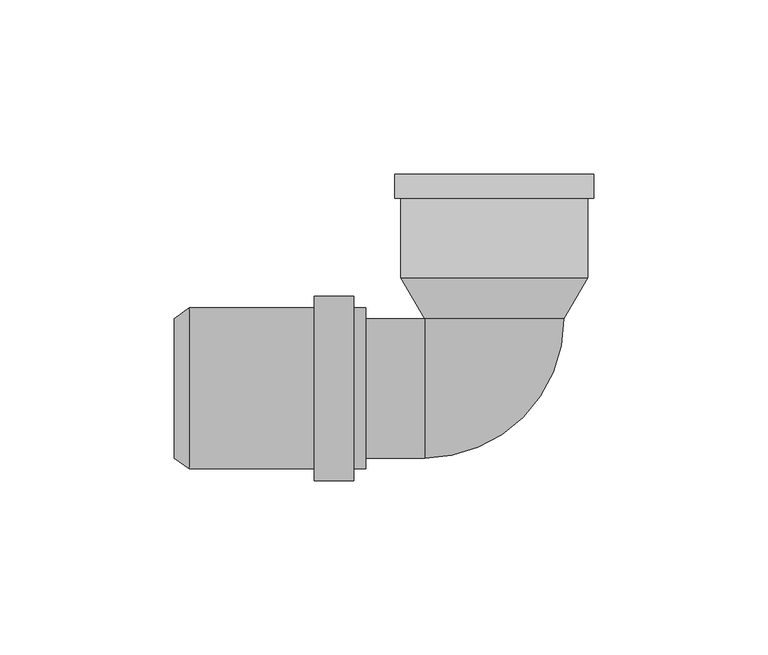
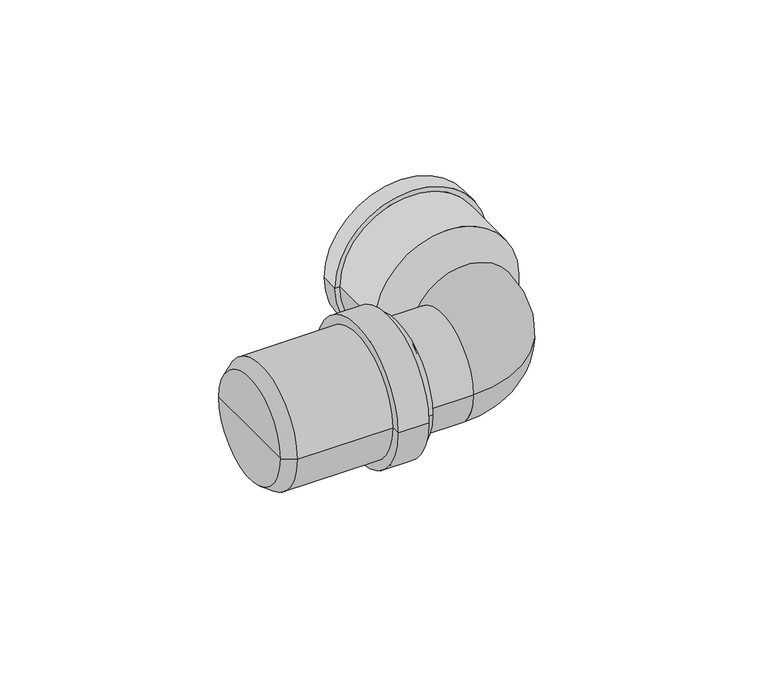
"""IFC4 building model written with IfcOpenShell, lengths in millimetres: pipe fitting geometry, pf_HTSW : pf_HTSW."""

from ifc_helpers import new_model, si_unit, point, frame, origin, origin_2d, place, context, project, spatial, polyline, circle_curve, ellipse_curve, trimmed, segment, composite_curve, outline, extrude, source, transform, mapped, element, save
from ifc_brep_helpers import plane_surface, cylinder_surface, revolved_surface, advanced_brep


def pipe_fitting_5e0d7752(model_context):
    return source(origin(), model_context, "Body", "SolidModel", [
        advanced_brep(
        [(-91.9, -20.0, 0.0), (-91.9, 20.0, 0.0), (-87.5, 23.1, 0.0), (-87.5, -23.1, 0.0), (-91.9, 0.0, 0.0), (-36.9, -23.1, 0.0), (-36.9, 23.1, 0.0), (-36.9, 20.0, 0.0), (-36.9, -20.0, 0.0), (-40.3, -23.1, 0.0), (-40.3, 23.1, 0.0), (-40.3, -26.5, 0.0), (-40.3, 26.5, 0.0), (-51.7, -26.5, 0.0), (-51.7, 26.5, 0.0), (-51.7, -23.1, 0.0), (-51.7, 23.1, 0.0), (-87.5, -20.0, 0.0), (-87.5, 20.0, 0.0), (-87.5, 0.0, 0.0)],
        [
            (0, 1, circle_curve(frame((-91.9, 0.0, 0.0), z_axis=(1.0, 0.0, 0.0), x_axis=(0.0, 1.0, 0.0)), 20.0)),
            (1, 2),
            (2, 3, circle_curve(frame((-87.5, 0.0, 0.0), z_axis=(-1.0, 0.0, 0.0), x_axis=(0.0, 1.0, 0.0)), 23.1)),
            (3, 0),
            (1, 0, circle_curve(frame((-91.9, 0.0, 0.0), z_axis=(1.0, 0.0, 0.0), x_axis=(0.0, 1.0, 0.0)), 20.0)),
            (3, 2, circle_curve(frame((-87.5, 0.0, 0.0), z_axis=(-1.0, 0.0, 0.0), x_axis=(0.0, 1.0, 0.0)), 23.1)),
            (4, 1),
            (0, 4),
            (5, 6, circle_curve(frame((-36.9, 0.0, 0.0), z_axis=(1.0, 0.0, 0.0), x_axis=(0.0, 1.0, 0.0)), 23.1)),
            (6, 7),
            (7, 8, circle_curve(frame((-36.9, 0.0, 0.0), z_axis=(-1.0, 0.0, 0.0), x_axis=(0.0, 1.0, 0.0)), 20.0)),
            (8, 5),
            (6, 5, circle_curve(frame((-36.9, 0.0, 0.0), z_axis=(1.0, 0.0, 0.0), x_axis=(0.0, 1.0, 0.0)), 23.1)),
            (8, 7, circle_curve(frame((-36.9, 0.0, 0.0), z_axis=(-1.0, 0.0, 0.0), x_axis=(0.0, 1.0, 0.0)), 20.0)),
            (9, 10, circle_curve(frame((-40.3, 0.0, 0.0), z_axis=(1.0, 0.0, 0.0), x_axis=(0.0, 1.0, 0.0)), 23.1)),
            (10, 6),
            (5, 9),
            (10, 9, circle_curve(frame((-40.3, 0.0, 0.0), z_axis=(1.0, 0.0, 0.0), x_axis=(0.0, 1.0, 0.0)), 23.1)),
            (11, 12, circle_curve(frame((-40.3, 0.0, 0.0), z_axis=(1.0, 0.0, 0.0), x_axis=(0.0, 1.0, 0.0)), 26.5)),
            (12, 10),
            (9, 11),
            (12, 11, circle_curve(frame((-40.3, 0.0, 0.0), z_axis=(1.0, 0.0, 0.0), x_axis=(0.0, 1.0, 0.0)), 26.5)),
            (13, 14, circle_curve(frame((-51.7, 0.0, 0.0), z_axis=(1.0, 0.0, 0.0), x_axis=(0.0, 1.0, 0.0)), 26.5)),
            (14, 12),
            (11, 13),
            (14, 13, circle_curve(frame((-51.7, 0.0, 0.0), z_axis=(1.0, 0.0, 0.0), x_axis=(0.0, 1.0, 0.0)), 26.5)),
            (15, 16, circle_curve(frame((-51.7, 0.0, 0.0), z_axis=(1.0, 0.0, 0.0), x_axis=(0.0, 1.0, 0.0)), 23.1)),
            (16, 14),
            (13, 15),
            (16, 15, circle_curve(frame((-51.7, 0.0, 0.0), z_axis=(1.0, 0.0, 0.0), x_axis=(0.0, 1.0, 0.0)), 23.1)),
            (2, 16),
            (15, 3),
            (17, 18, circle_curve(frame((-87.5, 0.0, 0.0), z_axis=(1.0, 0.0, 0.0), x_axis=(0.0, 1.0, 0.0)), 20.0)),
            (18, 19),
            (19, 17),
            (18, 17, circle_curve(frame((-87.5, 0.0, 0.0), z_axis=(1.0, 0.0, 0.0), x_axis=(0.0, 1.0, 0.0)), 20.0)),
            (7, 18),
            (17, 8),
        ],
        [
            revolved_surface(polyline([(-87.5, 23.1, 0.0), (-91.9, 20.0, 0.0)]), (-91.9, 0.0, 0.0), (-1.0, 0.0, 0.0)),
            plane_surface(frame((-91.9, 0.0, 0.0), z_axis=(-1.0, 0.0, 0.0), x_axis=(0.0, 1.0, 0.0))),
            plane_surface(frame((-36.9, 0.0, 0.0), z_axis=(1.0, 0.0, 0.0), x_axis=(0.0, 1.0, 0.0))),
            cylinder_surface(frame((-91.9, 0.0, 0.0), z_axis=(-1.0, 0.0, 0.0), x_axis=(0.0, 1.0, 0.0)), 23.1),
            plane_surface(frame((-40.3, 0.0, 0.0), z_axis=(1.0, 0.0, 0.0), x_axis=(0.0, 1.0, 0.0))),
            cylinder_surface(frame((-91.9, 0.0, 0.0), z_axis=(-1.0, 0.0, 0.0), x_axis=(0.0, 1.0, 0.0)), 26.5),
            plane_surface(frame((-51.7, 0.0, 0.0), z_axis=(-1.0, 0.0, 0.0), x_axis=(0.0, 1.0, 0.0))),
            plane_surface(frame((-87.5, 0.0, 0.0), z_axis=(1.0, 0.0, 0.0), x_axis=(0.0, 1.0, 0.0))),
            revolved_surface(polyline([(-87.5, 20.0, 0.0), (-36.9, 20.0, 0.0)]), (-91.9, 0.0, 0.0), (-1.0, 0.0, 0.0)),
        ],
        [
            (0, [[1, 2, 3, 4]]),
            (0, [[5, -4, 6, -2]]),
            (1, [[7, -1, 8]]),
            (1, [[-8, -5, -7]]),
            (2, [[9, 10, 11, 12]]),
            (2, [[13, -12, 14, -10]]),
            (3, [[15, 16, -9, 17]]),
            (3, [[18, -17, -13, -16]]),
            (4, [[19, 20, -15, 21]]),
            (4, [[22, -21, -18, -20]]),
            (5, [[23, 24, -19, 25]]),
            (5, [[26, -25, -22, -24]]),
            (6, [[27, 28, -23, 29]]),
            (6, [[30, -29, -26, -28]]),
            (3, [[-3, 31, -27, 32]]),
            (3, [[-6, -32, -30, -31]]),
            (7, [[33, 34, 35]]),
            (7, [[36, -35, -34]]),
            (8, [[-11, 37, -33, 38]]),
            (8, [[-14, -38, -36, -37]]),
        ],
    ),
        extrude(outline(composite_curve([segment(trimmed(circle_curve(origin_2d(), 20.0), [point((-20.0, 0.0))], [point((20.0, 0.0))], False, "CARTESIAN"), True, "CONTINUOUS"), segment(trimmed(circle_curve(origin_2d(), 20.0), [point((20.0, 0.0))], [point((-20.0, 0.0))], False, "CARTESIAN"), True, "CONTINUOUS")], self_intersect=False)), frame((-36.9, 0.0, 0.0), z_axis=(1.0, 0.0, 0.0), x_axis=(0.0, 1.0, 0.0)), (0.0, 0.0, 1.0), 16.9),
        advanced_brep(
        [(20.0, 20.0, 0.0), (-20.0, 20.0, 0.0), (-20.0, -20.0, 0.0)],
        [
            (0, 1, circle_curve(frame((0.0, 20.0, 0.0), z_axis=(0.0, 1.0, 0.0), x_axis=(-1.0, 0.0, 0.0)), 20.0)),
            (1, 0, circle_curve(frame((0.0, 20.0, 0.0), z_axis=(0.0, 1.0, 0.0), x_axis=(-1.0, 0.0, 0.0)), 20.0)),
            (2, 1, circle_curve(frame((-20.0, 0.0, 0.0), z_axis=(-1.0, 0.0, 0.0), x_axis=(0.0, 1.0, 0.0)), 20.0)),
            (1, 2, circle_curve(frame((-20.0, 0.0, 0.0), z_axis=(-1.0, 0.0, 0.0), x_axis=(0.0, 1.0, 0.0)), 20.0)),
            (0, 2, circle_curve(frame((-20.0, 20.0, 0.0), z_axis=(0.0, 0.0, -1.0), x_axis=(1.0, 0.0, 0.0)), 40.0)),
        ],
        [
            plane_surface(frame((-20.0, 20.0, -14.8), z_axis=(0.0, 1.0, 0.0), x_axis=(1.0, 0.0, 0.0))),
            plane_surface(frame((-20.0, 20.0, -14.8), z_axis=(-1.0, 0.0, 0.0), x_axis=(0.0, -1.0, 0.0))),
            revolved_surface(trimmed(ellipse_curve(frame((0.0, 20.0, 0.0), z_axis=(0.0, 1.0, 0.0), x_axis=(-1.0, 0.0, 0.0)), 20.0, 20.0), [point((20.0, 20.0, 0.0))], [point((-20.0, 20.0, 0.0))], True, "CARTESIAN"), (-20.0, 20.0, -14.8), (0.0, 0.0, -1.0)),
            revolved_surface(trimmed(ellipse_curve(frame((0.0, 20.0, 0.0), z_axis=(0.0, 1.0, 0.0), x_axis=(-1.0, 0.0, 0.0)), 20.0, 20.0), [point((-20.0, 20.0, 0.0))], [point((20.0, 20.0, 0.0))], True, "CARTESIAN"), (-20.0, 20.0, -14.8), (0.0, 0.0, -1.0)),
        ],
        [
            (0, [[1, 2]]),
            (1, [[3, 4]]),
            (2, [[-1, 5, -4]]),
            (3, [[-5, -2, -3]]),
        ],
    ),
        advanced_brep(
        [(25.0, 61.5, 0.0), (-25.0, 61.5, 0.0), (-25.0, 31.7, 0.0), (25.0, 31.7, 0.0), (28.6, 61.5, 0.0), (-28.6, 61.5, 0.0), (26.8, 31.7, 0.0), (-26.8, 31.7, 0.0), (-26.8, 54.5184027, 0.0), (26.8, 54.5184027, 0.0), (20.0, 20.0, 0.0), (-20.0, 20.0, 0.0), (0.0, 20.0, 0.0), (-28.6, 54.5184027, 0.0), (28.6, 54.5184027, 0.0), (0.0, 31.7, 0.0)],
        [
            (0, 1, circle_curve(frame((0.0, 61.5, 0.0), z_axis=(0.0, 1.0, 0.0), x_axis=(-1.0, 0.0, 0.0)), 25.0)),
            (1, 2),
            (2, 3, circle_curve(frame((0.0, 31.7, 0.0), z_axis=(0.0, -1.0, 0.0), x_axis=(-1.0, 0.0, 0.0)), 25.0)),
            (3, 0),
            (4, 5, circle_curve(frame((0.0, 61.5, 0.0), z_axis=(0.0, 1.0, 0.0), x_axis=(-1.0, 0.0, 0.0)), 28.6)),
            (5, 1),
            (0, 4),
            (6, 7, circle_curve(frame((0.0, 31.7, 0.0), z_axis=(0.0, 1.0, 0.0), x_axis=(-1.0, 0.0, 0.0)), 26.8)),
            (7, 8),
            (8, 9, circle_curve(frame((0.0, 54.5184027, 0.0), z_axis=(0.0, -1.0, 0.0), x_axis=(-1.0, 0.0, 0.0)), 26.8)),
            (9, 6),
            (10, 11, circle_curve(frame((0.0, 20.0, 0.0), z_axis=(0.0, 1.0, 0.0), x_axis=(-1.0, 0.0, 0.0)), 20.0)),
            (11, 7),
            (6, 10),
            (12, 11),
            (10, 12),
            (8, 13),
            (13, 14, circle_curve(frame((0.0, 54.5184027, 0.0), z_axis=(0.0, -1.0, 0.0), x_axis=(-1.0, 0.0, 0.0)), 28.6)),
            (14, 9),
            (1, 0, circle_curve(frame((0.0, 61.5, 0.0), z_axis=(0.0, 1.0, 0.0), x_axis=(-1.0, 0.0, 0.0)), 25.0)),
            (3, 2, circle_curve(frame((0.0, 31.7, 0.0), z_axis=(0.0, -1.0, 0.0), x_axis=(-1.0, 0.0, 0.0)), 25.0)),
            (5, 4, circle_curve(frame((0.0, 61.5, 0.0), z_axis=(0.0, 1.0, 0.0), x_axis=(-1.0, 0.0, 0.0)), 28.6)),
            (13, 5),
            (4, 14),
            (13, 14, circle_curve(frame((0.0, 54.5184027, 0.0), z_axis=(0.0, 1.0, 0.0), x_axis=(-1.0, 0.0, 0.0)), 28.6)),
            (8, 9, circle_curve(frame((0.0, 54.5184027, 0.0), z_axis=(0.0, 1.0, 0.0), x_axis=(-1.0, 0.0, 0.0)), 26.8)),
            (7, 6, circle_curve(frame((0.0, 31.7, 0.0), z_axis=(0.0, 1.0, 0.0), x_axis=(-1.0, 0.0, 0.0)), 26.8)),
            (11, 10, circle_curve(frame((0.0, 20.0, 0.0), z_axis=(0.0, 1.0, 0.0), x_axis=(-1.0, 0.0, 0.0)), 20.0)),
            (2, 15),
            (15, 3),
        ],
        [
            revolved_surface(polyline([(-25.0, 31.7, 0.0), (-25.0, 61.5, 0.0)]), (0.0, 61.5, 0.0), (0.0, -1.0, 0.0)),
            plane_surface(frame((0.0, 61.5, 0.0), z_axis=(0.0, 1.0, 0.0), x_axis=(-1.0, 0.0, 0.0))),
            cylinder_surface(frame((0.0, 61.5, 0.0), z_axis=(0.0, -1.0, 0.0), x_axis=(-1.0, 0.0, 0.0)), 26.8),
            revolved_surface(polyline([(-26.8, 31.7, 0.0), (-20.0, 20.0, 0.0)]), (0.0, 61.5, 0.0), (0.0, -1.0, 0.0)),
            plane_surface(frame((0.0, 20.0, 0.0), z_axis=(0.0, -1.0, 0.0), x_axis=(-1.0, 0.0, 0.0))),
            plane_surface(frame((0.0, 54.5184027, 0.0), z_axis=(0.0, -1.0, 0.0), x_axis=(-1.0, 0.0, 0.0))),
            cylinder_surface(frame((0.0, 61.5, 0.0), z_axis=(0.0, -1.0, 0.0), x_axis=(-1.0, 0.0, 0.0)), 28.6),
            plane_surface(frame((0.0, 31.7, 0.0), z_axis=(0.0, 1.0, 0.0), x_axis=(-1.0, 0.0, 0.0))),
        ],
        [
            (0, [[1, 2, 3, 4]]),
            (1, [[5, 6, -1, 7]]),
            (2, [[8, 9, 10, 11]]),
            (3, [[12, 13, -8, 14]]),
            (4, [[15, -12, 16]]),
            (5, [[-10, 17, 18, 19]]),
            (0, [[20, -4, 21, -2]]),
            (1, [[22, -7, -20, -6]]),
            (6, [[-18, 23, -5, 24]]),
            (6, [[25, -24, -22, -23]]),
            (5, [[26, -19, -25, -17]]),
            (2, [[27, -11, -26, -9]]),
            (3, [[28, -14, -27, -13]]),
            (4, [[-16, -28, -15]]),
            (7, [[-3, 29, 30]]),
            (7, [[-21, -30, -29]]),
        ],
    ),
    ])


if __name__ == "__main__":
    model = new_model("IFC4")
    model_context = context("Model", 3, world=origin())
    ifc_project = project(units=[si_unit("LENGTHUNIT", "METRE", prefix="MILLI")], contexts=[model_context])
    site = spatial("IfcSite", under=ifc_project)
    building = spatial("IfcBuilding", under=site)
    placement = place(None, origin())
    pipe_fitting_shape = pipe_fitting_5e0d7752(model_context)
    element("IfcPipeFitting", 1, ObjectType="pf_HTSW : pf_HTSW", at=placement, inside=building, context=model_context, shape_type="MappedRepresentation", body=[
        mapped(pipe_fitting_shape, transform((0.0, 0.0, 0.0), x_axis=(1.0, 0.0, 0.0), y_axis=(0.0, 1.0, 0.0), z_axis=(0.0, 0.0, 1.0))),
    ])
    save(model, "model.ifc")
